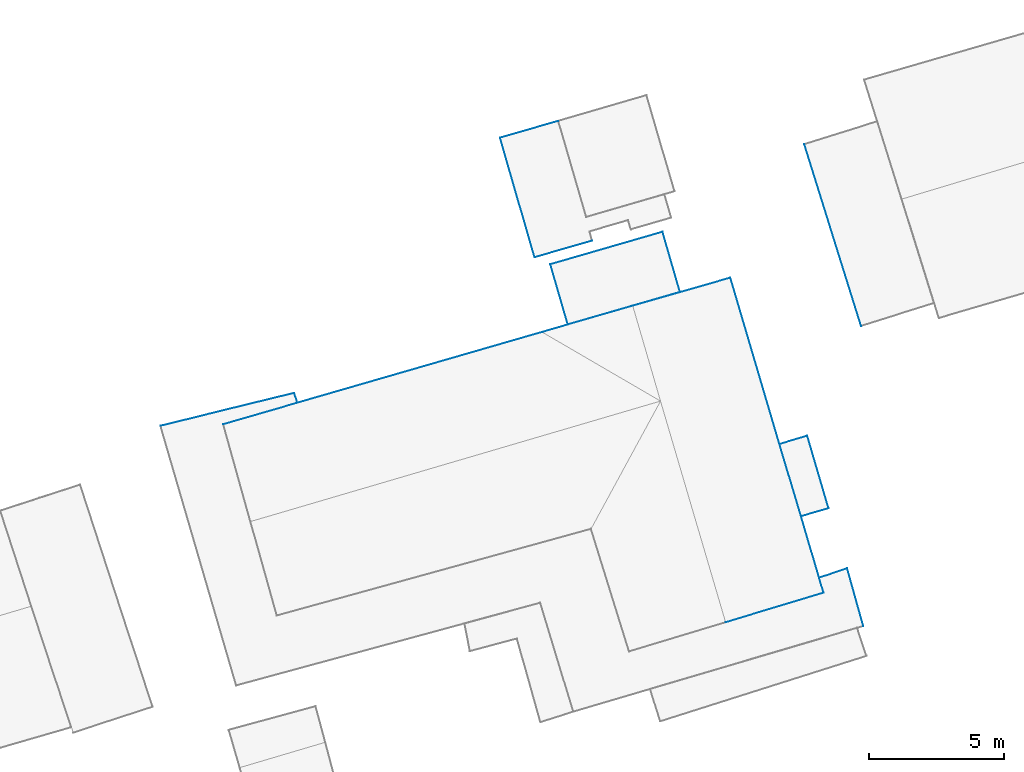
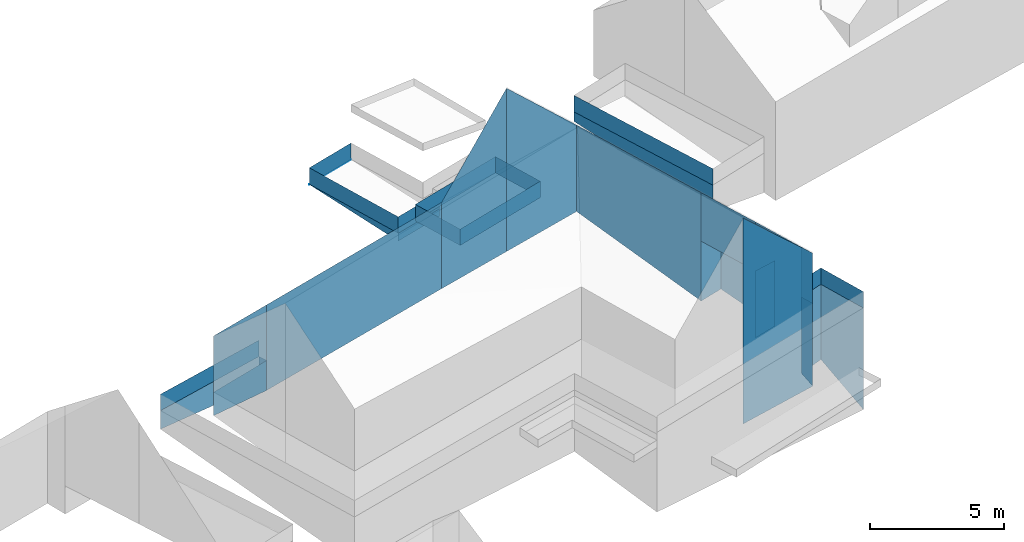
# Not in any storey, part 22 of 57: 44 walls.
"""IFC4 building model written with IfcOpenShell, lengths in metres."""

from ifc_helpers import new_model, entity, si_unit, converted_unit, frame, origin, place, context, subcontext, project, spatial, face_set, surface_model, element, save


model = new_model("IFC4")

# Units and contexts
model_context = context("Model", 3, precision=1e-05, world=origin())
body_context = subcontext(model_context, "Body", "Model", "MODEL_VIEW")
ifc_project = project(units=[converted_unit("PLANEANGLEUNIT", "DEGREE", entity("IfcRatioMeasure", 0.0174532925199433), si_unit("PLANEANGLEUNIT", "RADIAN"), dimensions=[0, 0, 0, 0, 0, 0, 0]), si_unit("AREAUNIT", "SQUARE_METRE"), si_unit("LENGTHUNIT", "METRE")], contexts=[model_context])

# Site, building
site_placement = place(None, origin())
site = spatial("IfcSite", under=ifc_project, at=site_placement, Name="_site")
building_1_placement = place(site_placement, origin())
building_1 = spatial("IfcBuilding", under=site, at=building_1_placement, Name="_building")

# Walls
wall_1_placement = place(building_1_placement, origin())
element("IfcWall", 1, at=wall_1_placement, inside=building_1, Name="Wall", PredefinedType="NOTDEFINED", context=body_context, shape_type="SurfaceModel", body=[
    surface_model("IfcFaceBasedSurfaceModel", [(166.311, 143.631, 118.257), (167.348, 143.976, 118.257), (167.348, 143.976, 114.833), (166.311, 143.631, 114.772)], [face_set([[[0, 1, 2, 3]]])]),
])
wall_2_placement = place(building_1_placement, origin())
element("IfcWall", 2, at=wall_2_placement, inside=building_1, Name="Wall", PredefinedType="NOTDEFINED", context=body_context, shape_type="SurfaceModel", body=[
    surface_model("IfcFaceBasedSurfaceModel", [(166.476, 143.076, 118.249), (166.311, 143.631, 118.257), (166.311, 143.631, 114.772), (166.476, 143.076, 114.467)], [face_set([[[0, 1, 2, 3]]])]),
])
wall_3_placement = place(building_1_placement, origin())
element("IfcWall", 3, at=wall_3_placement, inside=building_1, Name="Wall", PredefinedType="NOTDEFINED", context=body_context, shape_type="SurfaceModel", body=[
    surface_model("IfcFaceBasedSurfaceModel", [(147.0, 150.104, 118.198), (144.258, 149.309, 118.198), (144.258, 149.309, 117.124), (147.0, 150.104, 116.834)], [face_set([[[0, 1, 2, 3]]])]),
])
wall_4_placement = place(building_1_placement, origin())
element("IfcWall", 4, at=wall_4_placement, inside=building_1, Name="Wall", PredefinedType="NOTDEFINED", context=body_context, shape_type="SurfaceModel", body=[
    surface_model("IfcFaceBasedSurfaceModel", [(146.887, 150.468, 118.198), (147.0, 150.104, 118.198), (147.0, 150.104, 116.834), (146.887, 150.468, 116.903)], [face_set([[[0, 1, 2, 3]]])]),
])
wall_5_placement = place(building_1_placement, origin())
element("IfcWall", 5, at=wall_5_placement, inside=building_1, Name="Wall", PredefinedType="NOTDEFINED", context=body_context, shape_type="SurfaceModel", body=[
    surface_model("IfcFaceBasedSurfaceModel", [(141.935, 149.254, 118.198), (146.887, 150.468, 118.198), (146.887, 150.468, 116.903), (141.935, 149.254, 117.355)], [face_set([[[0, 1, 2, 3]]])]),
])
wall_6_placement = place(building_1_placement, origin())
element("IfcWall", 6, at=wall_6_placement, inside=building_1, Name="Wall", PredefinedType="NOTDEFINED", context=body_context, shape_type="SurfaceModel", body=[
    surface_model("IfcFaceBasedSurfaceModel", [(167.348, 143.976, 118.257), (167.948, 141.84, 118.257), (167.948, 141.84, 113.633), (167.348, 143.976, 114.833)], [face_set([[[0, 1, 2, 3]]])]),
])
wall_7_placement = place(building_1_placement, origin())
element("IfcWall", 7, at=wall_7_placement, inside=building_1, Name="Wall", PredefinedType="NOTDEFINED", context=body_context, shape_type="SurfaceModel", body=[
    surface_model("IfcFaceBasedSurfaceModel", [(167.348, 143.976, 118.257), (166.311, 143.631, 118.257), (166.311, 143.631, 119.007), (167.348, 143.976, 119.007)], [face_set([[[0, 1, 2, 3]]])]),
])
wall_8_placement = place(building_1_placement, origin())
element("IfcWall", 8, at=wall_8_placement, inside=building_1, Name="Wall", PredefinedType="NOTDEFINED", context=body_context, shape_type="SurfaceModel", body=[
    surface_model("IfcFaceBasedSurfaceModel", [(167.948, 141.84, 118.257), (167.348, 143.976, 118.257), (167.348, 143.976, 119.007), (167.948, 141.84, 119.007)], [face_set([[[0, 1, 2, 3]]])]),
])
wall_9_placement = place(building_1_placement, origin())
element("IfcWall", 9, at=wall_9_placement, inside=building_1, Name="Wall", PredefinedType="NOTDEFINED", context=body_context, shape_type="SurfaceModel", body=[
    surface_model("IfcFaceBasedSurfaceModel", [(146.887, 150.468, 118.198), (141.935, 149.254, 118.198), (141.935, 149.254, 118.948), (146.887, 150.468, 118.948)], [face_set([[[0, 1, 2, 3]]])]),
])
wall_10_placement = place(building_1_placement, origin())
element("IfcWall", 10, at=wall_10_placement, inside=building_1, Name="Wall", PredefinedType="NOTDEFINED", context=body_context, shape_type="SurfaceModel", body=[
    surface_model("IfcFaceBasedSurfaceModel", [(167.348, 143.976, 118.257), (166.311, 143.631, 118.257), (166.311, 143.631, 119.007), (167.348, 143.976, 119.007)], [face_set([[[0, 1, 2, 3]]])]),
])
wall_11_placement = place(building_1_placement, origin())
element("IfcWall", 11, at=wall_11_placement, inside=building_1, Name="Wall", PredefinedType="NOTDEFINED", context=body_context, shape_type="SurfaceModel", body=[
    surface_model("IfcFaceBasedSurfaceModel", [(167.948, 141.84, 118.257), (167.348, 143.976, 118.257), (167.348, 143.976, 119.007), (167.948, 141.84, 119.007)], [face_set([[[0, 1, 2, 3]]])]),
])
wall_12_placement = place(building_1_placement, origin())
element("IfcWall", 12, at=wall_12_placement, inside=building_1, Name="Wall", PredefinedType="NOTDEFINED", context=body_context, shape_type="SurfaceModel", body=[
    surface_model("IfcFaceBasedSurfaceModel", [(146.887, 150.468, 118.198), (141.935, 149.254, 118.198), (141.935, 149.254, 118.948), (146.887, 150.468, 118.948)], [face_set([[[0, 1, 2, 3]]])]),
])

# Building
building_2_placement = place(site_placement, origin())
building_2 = spatial("IfcBuilding", under=site, at=building_2_placement, Name="_building")

# Walls
wall_13_placement = place(building_2_placement, origin())
element("IfcWall", 13, at=wall_13_placement, inside=building_2, Name="Wall", PredefinedType="NOTDEFINED", context=body_context, shape_type="SurfaceModel", body=[
    surface_model("IfcFaceBasedSurfaceModel", [(166.476, 143.076, 120.53), (162.848, 141.98, 124.06), (162.848, 141.98, 114.683), (166.476, 143.076, 114.467)], [face_set([[[0, 1, 2, 3]]])]),
])
wall_14_placement = place(building_2_placement, origin())
element("IfcWall", 14, at=wall_14_placement, inside=building_2, Name="Wall", PredefinedType="NOTDEFINED", context=body_context, shape_type="SurfaceModel", body=[
    surface_model("IfcFaceBasedSurfaceModel", [(164.844, 148.577, 120.52), (165.642, 145.907, 120.53), (165.642, 145.907, 118.3), (164.844, 148.577, 118.31)], [face_set([[[0, 1, 2, 3]]])]),
])
wall_15_placement = place(building_2_placement, origin())
element("IfcWall", 15, at=wall_15_placement, inside=building_2, Name="Wall", PredefinedType="NOTDEFINED", context=body_context, shape_type="SurfaceModel", body=[
    surface_model("IfcFaceBasedSurfaceModel", [(159.41, 153.697, 124.08), (163.027, 154.733, 120.51), (163.027, 154.733, 116.564), (159.41, 153.697, 116.636)], [face_set([[[0, 1, 2, 3]]])]),
])
wall_16_placement = place(building_2_placement, origin())
element("IfcWall", 16, at=wall_16_placement, inside=building_2, Name="Wall", PredefinedType="NOTDEFINED", context=body_context, shape_type="SurfaceModel", body=[
    surface_model("IfcFaceBasedSurfaceModel", [(166.311, 143.631, 120.53), (166.476, 143.076, 120.53), (166.476, 143.076, 114.467), (166.311, 143.631, 114.772)], [face_set([[[0, 1, 2, 3]]])]),
])
wall_17_placement = place(building_2_placement, origin())
element("IfcWall", 17, at=wall_17_placement, inside=building_2, Name="Wall", PredefinedType="NOTDEFINED", context=body_context, shape_type="SurfaceModel", body=[
    surface_model("IfcFaceBasedSurfaceModel", [(156.055, 152.725, 120.64), (159.41, 153.697, 124.08), (159.41, 153.697, 116.636), (156.055, 152.725, 116.709)], [face_set([[[0, 1, 2, 3]]])]),
])
wall_18_placement = place(building_2_placement, origin())
element("IfcWall", 18, at=wall_18_placement, inside=building_2, Name="Wall", PredefinedType="NOTDEFINED", context=body_context, shape_type="SurfaceModel", body=[
    surface_model("IfcFaceBasedSurfaceModel", [(147.0, 150.104, 120.732), (156.055, 152.725, 120.64), (156.055, 152.725, 116.709), (147.0, 150.104, 116.834)], [face_set([[[0, 1, 2, 3]]])]),
])
wall_19_placement = place(building_2_placement, origin())
element("IfcWall", 19, at=wall_19_placement, inside=building_2, Name="Wall", PredefinedType="NOTDEFINED", context=body_context, shape_type="SurfaceModel", body=[
    surface_model("IfcFaceBasedSurfaceModel", [(144.258, 149.309, 120.76), (147.0, 150.104, 120.732), (147.0, 150.104, 116.834), (144.258, 149.309, 117.124)], [face_set([[[0, 1, 2, 3]]])]),
])
wall_20_placement = place(building_2_placement, origin())
element("IfcWall", 20, at=wall_20_placement, inside=building_2, Name="Wall", PredefinedType="NOTDEFINED", context=body_context, shape_type="SurfaceModel", body=[
    surface_model("IfcFaceBasedSurfaceModel", [(166.659, 146.203, 118.24), (165.642, 145.907, 118.3), (165.642, 145.907, 115.239), (166.659, 146.203, 115.247)], [face_set([[[0, 1, 2, 3]]])]),
])
wall_21_placement = place(building_2_placement, origin())
element("IfcWall", 21, at=wall_21_placement, inside=building_2, Name="Wall", PredefinedType="NOTDEFINED", context=body_context, shape_type="SurfaceModel", body=[
    surface_model("IfcFaceBasedSurfaceModel", [(165.872, 148.883, 118.24), (166.659, 146.203, 118.24), (166.659, 146.203, 115.247), (165.872, 148.883, 115.586)], [face_set([[[0, 1, 2, 3]]])]),
])
wall_22_placement = place(building_2_placement, origin())
element("IfcWall", 22, at=wall_22_placement, inside=building_2, Name="Wall", PredefinedType="NOTDEFINED", context=body_context, shape_type="SurfaceModel", body=[
    surface_model("IfcFaceBasedSurfaceModel", [(164.844, 148.577, 118.31), (165.872, 148.883, 118.24), (165.872, 148.883, 115.586), (164.844, 148.577, 115.58)], [face_set([[[0, 1, 2, 3]]])]),
])
wall_23_placement = place(building_2_placement, origin())
element("IfcWall", 23, at=wall_23_placement, inside=building_2, Name="Wall", PredefinedType="NOTDEFINED", context=body_context, shape_type="SurfaceModel", body=[
    surface_model("IfcFaceBasedSurfaceModel", [(163.027, 154.733, 120.51), (164.844, 148.577, 120.52), (164.844, 148.577, 115.58), (163.027, 154.733, 116.564)], [face_set([[[0, 1, 2, 3]]])]),
])
wall_24_placement = place(building_2_placement, origin())
element("IfcWall", 24, at=wall_24_placement, inside=building_2, Name="Wall", PredefinedType="NOTDEFINED", context=body_context, shape_type="SurfaceModel", body=[
    surface_model("IfcFaceBasedSurfaceModel", [(165.642, 145.907, 120.53), (166.311, 143.631, 120.53), (166.311, 143.631, 114.772), (165.642, 145.907, 115.239)], [face_set([[[0, 1, 2, 3]]])]),
])
wall_25_placement = place(building_2_placement, origin())
element("IfcWall", 25, at=wall_25_placement, inside=building_2, Name="Wall", PredefinedType="NOTDEFINED", context=body_context, shape_type="SurfaceModel", body=[
    surface_model("IfcFaceBasedSurfaceModel", [(161.163, 154.207, 118.17), (157.013, 153.003, 118.17), (157.013, 153.003, 118.92), (161.163, 154.207, 118.92)], [face_set([[[0, 1, 2, 3]]])]),
])
wall_26_placement = place(building_2_placement, origin())
element("IfcWall", 26, at=wall_26_placement, inside=building_2, Name="Wall", PredefinedType="NOTDEFINED", context=body_context, shape_type="SurfaceModel", body=[
    surface_model("IfcFaceBasedSurfaceModel", [(160.515, 156.433, 118.17), (161.163, 154.207, 118.17), (161.163, 154.207, 118.92), (160.515, 156.433, 118.92)], [face_set([[[0, 1, 2, 3]]])]),
])
wall_27_placement = place(building_2_placement, origin())
element("IfcWall", 27, at=wall_27_placement, inside=building_2, Name="Wall", PredefinedType="NOTDEFINED", context=body_context, shape_type="SurfaceModel", body=[
    surface_model("IfcFaceBasedSurfaceModel", [(156.364, 155.229, 118.17), (160.515, 156.433, 118.17), (160.515, 156.433, 118.92), (156.364, 155.229, 118.92)], [face_set([[[0, 1, 2, 3]]])]),
])
wall_28_placement = place(building_2_placement, origin())
element("IfcWall", 28, at=wall_28_placement, inside=building_2, Name="Wall", PredefinedType="NOTDEFINED", context=body_context, shape_type="SurfaceModel", body=[
    surface_model("IfcFaceBasedSurfaceModel", [(157.013, 153.003, 118.17), (156.364, 155.229, 118.17), (156.364, 155.229, 118.92), (157.013, 153.003, 118.92)], [face_set([[[0, 1, 2, 3]]])]),
])
wall_29_placement = place(building_2_placement, origin())
element("IfcWall", 29, at=wall_29_placement, inside=building_2, Name="Wall", PredefinedType="NOTDEFINED", context=body_context, shape_type="SurfaceModel", body=[
    surface_model("IfcFaceBasedSurfaceModel", [(161.163, 154.207, 118.17), (157.013, 153.003, 118.17), (157.013, 153.003, 118.92), (161.163, 154.207, 118.92)], [face_set([[[0, 1, 2, 3]]])]),
])
wall_30_placement = place(building_2_placement, origin())
element("IfcWall", 30, at=wall_30_placement, inside=building_2, Name="Wall", PredefinedType="NOTDEFINED", context=body_context, shape_type="SurfaceModel", body=[
    surface_model("IfcFaceBasedSurfaceModel", [(160.515, 156.433, 118.17), (161.163, 154.207, 118.17), (161.163, 154.207, 118.92), (160.515, 156.433, 118.92)], [face_set([[[0, 1, 2, 3]]])]),
])
wall_31_placement = place(building_2_placement, origin())
element("IfcWall", 31, at=wall_31_placement, inside=building_2, Name="Wall", PredefinedType="NOTDEFINED", context=body_context, shape_type="SurfaceModel", body=[
    surface_model("IfcFaceBasedSurfaceModel", [(156.364, 155.229, 118.17), (160.515, 156.433, 118.17), (160.515, 156.433, 118.92), (156.364, 155.229, 118.92)], [face_set([[[0, 1, 2, 3]]])]),
])
wall_32_placement = place(building_2_placement, origin())
element("IfcWall", 32, at=wall_32_placement, inside=building_2, Name="Wall", PredefinedType="NOTDEFINED", context=body_context, shape_type="SurfaceModel", body=[
    surface_model("IfcFaceBasedSurfaceModel", [(157.013, 153.003, 118.17), (156.364, 155.229, 118.17), (156.364, 155.229, 118.92), (157.013, 153.003, 118.92)], [face_set([[[0, 1, 2, 3]]])]),
])

# Building
building_3_placement = place(site_placement, origin())
building_3 = spatial("IfcBuilding", under=site, at=building_3_placement, Name="_building")

# Walls
wall_33_placement = place(building_3_placement, origin())
element("IfcWall", 33, at=wall_33_placement, inside=building_3, Name="Wall", PredefinedType="NOTDEFINED", context=body_context, shape_type="SurfaceModel", body=[
    surface_model("IfcFaceBasedSurfaceModel", [(167.868, 152.949, 117.155), (165.764, 159.672, 117.155), (165.764, 159.672, 116.726), (167.868, 152.949, 115.947)], [face_set([[[0, 1, 2, 3]]])]),
])
for number, where, name in (
    (34, (0.0, 0.0, 0.0), "Wall"),
    (35, (0.0, 0.0, 0.0), "Wall"),
):
    element("IfcWall", number, at=place(building_3_placement, frame(where)), inside=building_3, Name=name, PredefinedType="NOTDEFINED", context=body_context, shape_type="SurfaceModel", body=[
        surface_model("IfcFaceBasedSurfaceModel", [(167.868, 152.949, 117.155), (165.764, 159.672, 117.155), (165.764, 159.672, 117.905), (167.868, 152.949, 117.905)], [face_set([[[0, 1, 2, 3]]])]),
    ])

# Building
building_4_placement = place(site_placement, origin())
building_4 = spatial("IfcBuilding", under=site, at=building_4_placement, Name="_building")

# Walls
wall_34_placement = place(building_4_placement, origin())
element("IfcWall", 36, at=wall_34_placement, inside=building_4, Name="Wall", PredefinedType="NOTDEFINED", context=body_context, shape_type="SurfaceModel", body=[
    surface_model("IfcFaceBasedSurfaceModel", [(154.503, 159.916, 117.65), (156.659, 160.536, 117.65), (156.659, 160.536, 117.635), (154.503, 159.916, 117.635)], [face_set([[[0, 1, 2, 3]]])]),
])
wall_35_placement = place(building_4_placement, origin())
element("IfcWall", 37, at=wall_35_placement, inside=building_4, Name="Wall", PredefinedType="NOTDEFINED", context=body_context, shape_type="SurfaceModel", body=[
    surface_model("IfcFaceBasedSurfaceModel", [(157.906, 156.104, 117.65), (155.78, 155.493, 117.65), (155.78, 155.493, 117.294), (157.906, 156.104, 117.294)], [face_set([[[0, 1, 2, 3]]])]),
])
wall_36_placement = place(building_4_placement, origin())
element("IfcWall", 38, at=wall_36_placement, inside=building_4, Name="Wall", PredefinedType="NOTDEFINED", context=body_context, shape_type="SurfaceModel", body=[
    surface_model("IfcFaceBasedSurfaceModel", [(155.78, 155.493, 117.65), (154.503, 159.916, 117.65), (154.503, 159.916, 117.635), (155.78, 155.493, 117.294)], [face_set([[[0, 1, 2, 3]]])]),
])
wall_37_placement = place(building_4_placement, origin())
element("IfcWall", 39, at=wall_37_placement, inside=building_4, Name="Wall", PredefinedType="NOTDEFINED", context=body_context, shape_type="SurfaceModel", body=[
    surface_model("IfcFaceBasedSurfaceModel", [(154.503, 159.916, 117.65), (156.659, 160.536, 117.65), (156.659, 160.536, 118.4), (154.503, 159.916, 118.4)], [face_set([[[0, 1, 2, 3]]])]),
])
wall_38_placement = place(building_4_placement, origin())
element("IfcWall", 40, at=wall_38_placement, inside=building_4, Name="Wall", PredefinedType="NOTDEFINED", context=body_context, shape_type="SurfaceModel", body=[
    surface_model("IfcFaceBasedSurfaceModel", [(155.78, 155.493, 117.65), (154.503, 159.916, 117.65), (154.503, 159.916, 118.4), (155.78, 155.493, 118.4)], [face_set([[[0, 1, 2, 3]]])]),
])
wall_39_placement = place(building_4_placement, origin())
element("IfcWall", 41, at=wall_39_placement, inside=building_4, Name="Wall", PredefinedType="NOTDEFINED", context=body_context, shape_type="SurfaceModel", body=[
    surface_model("IfcFaceBasedSurfaceModel", [(157.906, 156.104, 117.65), (155.78, 155.493, 117.65), (155.78, 155.493, 118.4), (157.906, 156.104, 118.4)], [face_set([[[0, 1, 2, 3]]])]),
])
wall_40_placement = place(building_4_placement, origin())
element("IfcWall", 42, at=wall_40_placement, inside=building_4, Name="Wall", PredefinedType="NOTDEFINED", context=body_context, shape_type="SurfaceModel", body=[
    surface_model("IfcFaceBasedSurfaceModel", [(154.503, 159.916, 117.65), (156.659, 160.536, 117.65), (156.659, 160.536, 118.4), (154.503, 159.916, 118.4)], [face_set([[[0, 1, 2, 3]]])]),
])
wall_41_placement = place(building_4_placement, origin())
element("IfcWall", 43, at=wall_41_placement, inside=building_4, Name="Wall", PredefinedType="NOTDEFINED", context=body_context, shape_type="SurfaceModel", body=[
    surface_model("IfcFaceBasedSurfaceModel", [(155.78, 155.493, 117.65), (154.503, 159.916, 117.65), (154.503, 159.916, 118.4), (155.78, 155.493, 118.4)], [face_set([[[0, 1, 2, 3]]])]),
])
wall_42_placement = place(building_4_placement, origin())
element("IfcWall", 44, at=wall_42_placement, inside=building_4, Name="Wall", PredefinedType="NOTDEFINED", context=body_context, shape_type="SurfaceModel", body=[
    surface_model("IfcFaceBasedSurfaceModel", [(157.906, 156.104, 117.65), (155.78, 155.493, 117.65), (155.78, 155.493, 118.4), (157.906, 156.104, 118.4)], [face_set([[[0, 1, 2, 3]]])]),
])

save(model, "model.ifc")
